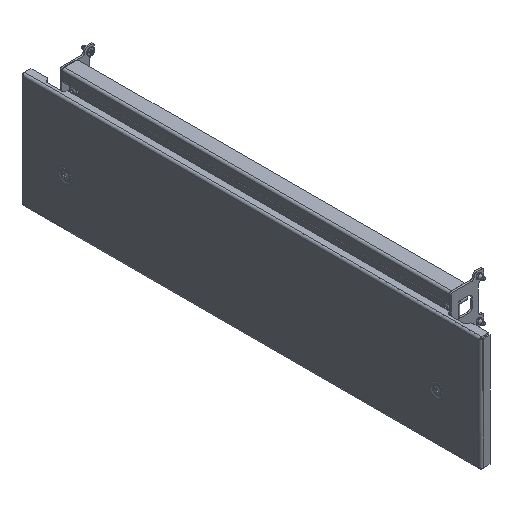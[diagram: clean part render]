
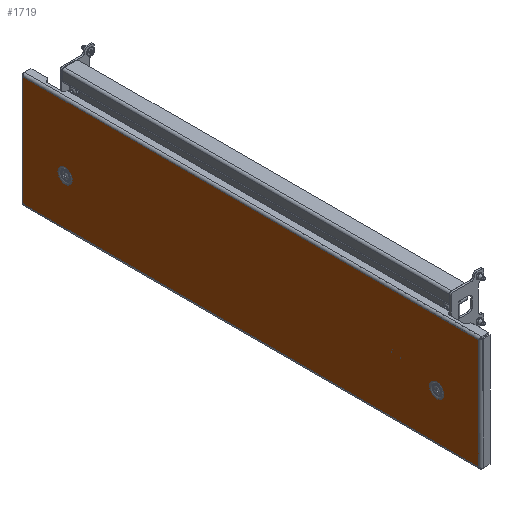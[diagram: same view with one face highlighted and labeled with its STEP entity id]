
A CAD part, isometric view. The second image highlights one B-rep face of the part: STEP entity #1719.
In plain terms, the highlighted planar face has unit normal (-1, 0, 0).
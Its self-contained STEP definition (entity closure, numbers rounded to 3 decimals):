
#1719=ADVANCED_FACE('',(#2522,#2524,#2526),#2528,.F.);
#2522=FACE_BOUND('',#2523,.T.);
#2523=EDGE_LOOP('',(#9329,#9330,#9331,#9332));
#2524=FACE_BOUND('',#2525,.T.);
#2525=EDGE_LOOP('',(#9333));
#2526=FACE_BOUND('',#2527,.T.);
#2527=EDGE_LOOP('',(#9334));
#2528=PLANE('',#2529);
#2529=AXIS2_PLACEMENT_3D('',#2530,#2531,#2532);
#2530=CARTESIAN_POINT('',(0.,0.,0.));
#2531=DIRECTION('',(1.,0.,0.));
#2532=DIRECTION('',(0.,1.,0.));
#9329=ORIENTED_EDGE('',*,*,#11337,.T.);
#9330=ORIENTED_EDGE('',*,*,#11338,.T.);
#9331=ORIENTED_EDGE('',*,*,#11339,.T.);
#9332=ORIENTED_EDGE('',*,*,#11340,.T.);
#9333=ORIENTED_EDGE('',*,*,#11341,.T.);
#9334=ORIENTED_EDGE('',*,*,#11342,.T.);
#11337=EDGE_CURVE('',#12403,#12404,#12405,.T.);
#11338=EDGE_CURVE('',#12404,#12406,#12407,.T.);
#11339=EDGE_CURVE('',#12406,#12408,#12409,.T.);
#11340=EDGE_CURVE('',#12408,#12403,#12410,.T.);
#11341=EDGE_CURVE('',#12411,#12411,#12412,.T.);
#11342=EDGE_CURVE('',#12413,#12413,#12414,.T.);
#12403=VERTEX_POINT('',#14250);
#12404=VERTEX_POINT('',#14251);
#12405=LINE('',#14252,#14253);
#12406=VERTEX_POINT('',#14255);
#12407=LINE('',#14256,#14257);
#12408=VERTEX_POINT('',#14259);
#12409=LINE('',#14260,#14261);
#12410=LINE('',#14263,#14264);
#12411=VERTEX_POINT('',#14266);
#12412=CIRCLE('',#14267,9.25);
#12413=VERTEX_POINT('',#14271);
#12414=CIRCLE('',#14272,9.25);
#14250=CARTESIAN_POINT('',(0.,292.7,70.7));
#14251=CARTESIAN_POINT('',(0.,292.7,-70.7));
#14252=CARTESIAN_POINT('',(0.,292.7,70.7));
#14253=VECTOR('',#14254,1.);
#14254=DIRECTION('',(0.,0.,-1.));
#14255=CARTESIAN_POINT('',(0.,-292.7,-70.7));
#14256=CARTESIAN_POINT('',(0.,292.7,-70.7));
#14257=VECTOR('',#14258,1.);
#14258=DIRECTION('',(0.,-1.,0.));
#14259=CARTESIAN_POINT('',(0.,-292.7,70.7));
#14260=CARTESIAN_POINT('',(0.,-292.7,-70.7));
#14261=VECTOR('',#14262,1.);
#14262=DIRECTION('',(0.,0.,1.));
#14263=CARTESIAN_POINT('',(0.,-292.7,70.7));
#14264=VECTOR('',#14265,1.);
#14265=DIRECTION('',(0.,1.,0.));
#14266=CARTESIAN_POINT('',(0.,247.75,-12.5));
#14267=AXIS2_PLACEMENT_3D('',#14268,#14269,#14270);
#14268=CARTESIAN_POINT('',(0.,238.5,-12.5));
#14269=DIRECTION('',(1.,0.,0.));
#14270=DIRECTION('',(0.,1.,0.));
#14271=CARTESIAN_POINT('',(0.,-229.25,-12.5));
#14272=AXIS2_PLACEMENT_3D('',#14273,#14274,#14275);
#14273=CARTESIAN_POINT('',(0.,-238.5,-12.5));
#14274=DIRECTION('',(1.,0.,0.));
#14275=DIRECTION('',(0.,1.,0.));
